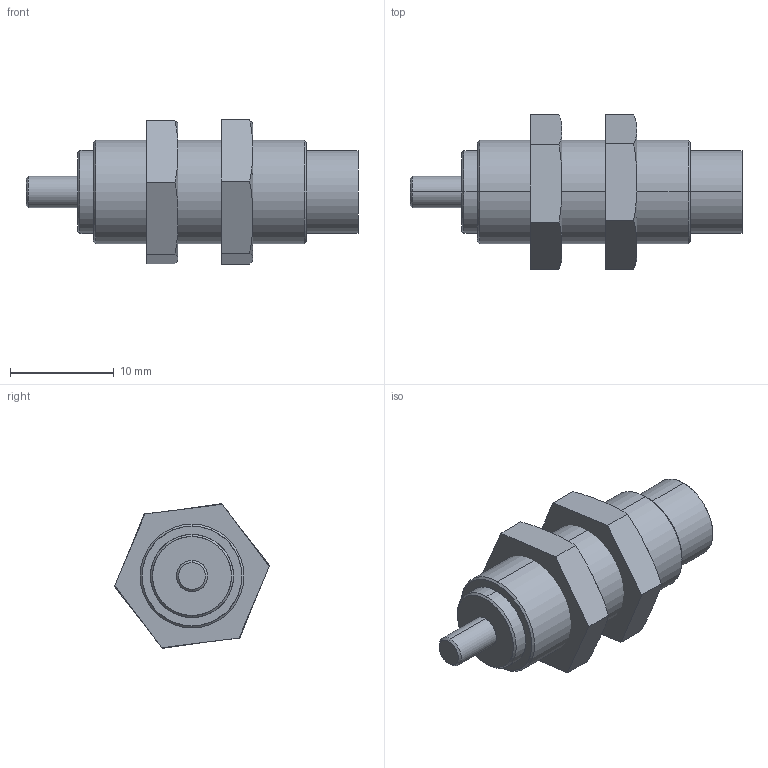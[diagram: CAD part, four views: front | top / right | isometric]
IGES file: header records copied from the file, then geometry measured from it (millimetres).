
Start section: SolidWorks IGES file using analytic representation for surfaces
Global section: file name: C:\Users\Sam Lin\Desktop\48\FSA-1005AA.IGS; native system: SolidWorks 2013; preprocessor: SolidWorks 2013; author: Sam Lin; date: 160317.153854; units: metre
Bounding box: 32 x 14.89 x 13.93 mm (x, y, z)
Surface area: 1763.8 mm2 (no closed solid volume)
Topology: 0 solids, 0 shells, 53 faces, 812 edges, 812 vertices
Faces by surface type: bspline 33, revolution 20
